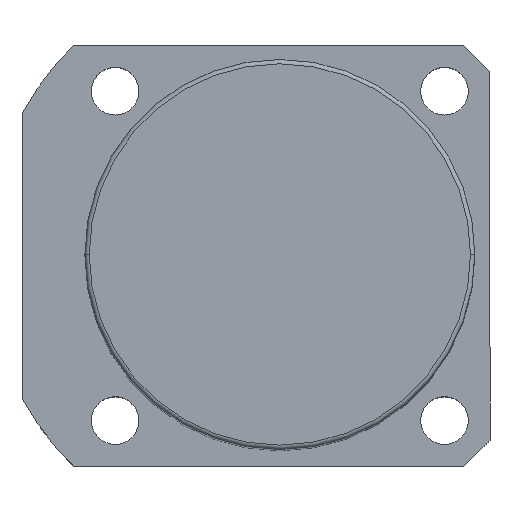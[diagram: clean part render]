
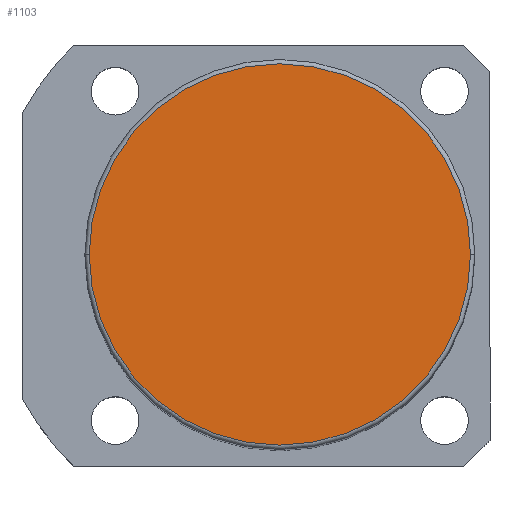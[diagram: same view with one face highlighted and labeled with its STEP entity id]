
A CAD part, top view. The second image highlights one B-rep face of the part: STEP entity #1103.
In plain terms, the highlighted planar face has unit normal (0, 0, 1).
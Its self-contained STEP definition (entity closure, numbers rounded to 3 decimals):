
#128 = AXIS2_PLACEMENT_3D ( 'NONE', #1276, #438, #1296 ) ;
#184 = ORIENTED_EDGE ( 'NONE', *, *, #540, .T. ) ;
#305 = AXIS2_PLACEMENT_3D ( 'NONE', #840, #1278, #416 ) ;
#375 = CIRCLE ( 'NONE', #638, 44. ) ;
#416 = DIRECTION ( 'NONE',  ( 1., 0., 0. ) ) ;
#438 = DIRECTION ( 'NONE',  ( 0., 0., 1. ) ) ;
#458 = FACE_OUTER_BOUND ( 'NONE', #645, .T. ) ;
#540 = EDGE_CURVE ( 'NONE', #1252, #1767, #375, .T. ) ;
#583 = CARTESIAN_POINT ( 'NONE',  ( 0., 0., 201.5 ) ) ;
#619 = CIRCLE ( 'NONE', #128, 44. ) ;
#638 = AXIS2_PLACEMENT_3D ( 'NONE', #583, #1578, #1721 ) ;
#645 = EDGE_LOOP ( 'NONE', ( #1149, #184 ) ) ;
#840 = CARTESIAN_POINT ( 'NONE',  ( 0., 0., 201.5 ) ) ;
#1024 = CARTESIAN_POINT ( 'NONE',  ( 44., 0., 201.5 ) ) ;
#1103 = ADVANCED_FACE ( 'NONE', ( #458 ), #1127, .T. ) ;
#1127 = PLANE ( 'NONE',  #305 ) ;
#1149 = ORIENTED_EDGE ( 'NONE', *, *, #1625, .T. ) ;
#1193 = CARTESIAN_POINT ( 'NONE',  ( -44., 0., 201.5 ) ) ;
#1252 = VERTEX_POINT ( 'NONE', #1193 ) ;
#1276 = CARTESIAN_POINT ( 'NONE',  ( 0., 0., 201.5 ) ) ;
#1278 = DIRECTION ( 'NONE',  ( 0., 0., 1. ) ) ;
#1296 = DIRECTION ( 'NONE',  ( 1., 0., 0. ) ) ;
#1578 = DIRECTION ( 'NONE',  ( 0., 0., 1. ) ) ;
#1625 = EDGE_CURVE ( 'NONE', #1767, #1252, #619, .T. ) ;
#1721 = DIRECTION ( 'NONE',  ( 1., 0., 0. ) ) ;
#1767 = VERTEX_POINT ( 'NONE', #1024 ) ;
